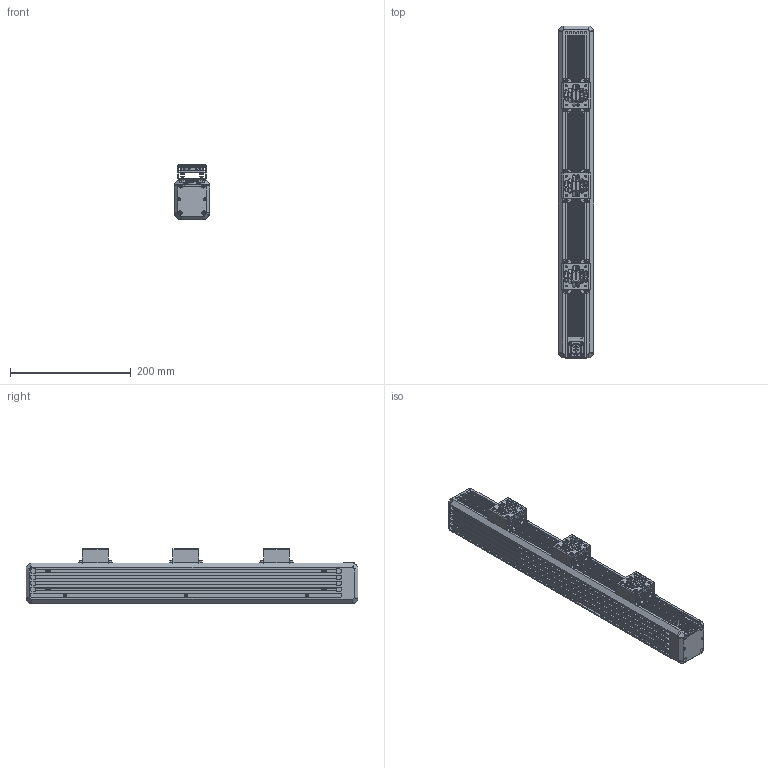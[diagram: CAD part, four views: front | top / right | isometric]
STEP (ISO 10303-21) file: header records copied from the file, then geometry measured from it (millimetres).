
FILE_DESCRIPTION((''),'2;1');
FILE_NAME('MV-LTDS-H-500-W','2022-09-02T16:42:21',('huguozhe'),(''),'CREO PARAMETRIC BY PTC INC, 2020044','CREO PARAMETRIC BY PTC INC, 2020044','');
FILE_SCHEMA(('AUTOMOTIVE_DESIGN { 1 0 10303 214 1 1 1 1 }'));
Products named in the file (1): MV-LTDS-H-500-W
Bounding box: 58 x 550 x 90.6 mm (x, y, z)
Volume: 1527283.3 mm3; surface area: 437322 mm2
Topology: 1 solids, 187 shells, 4017 faces, 10402 edges, 6460 vertices
Faces by surface type: plane 1958, cylinder 1323, cone 488, torus 202, bspline 46
Entity records: 144537 total; most frequent: CARTESIAN_POINT 28148, DIRECTION 21589, ORIENTED_EDGE 19896, EDGE_CURVE 10174, AXIS2_PLACEMENT_3D 8187, VERTEX_POINT 6460, VECTOR 5215, LINE 5215
